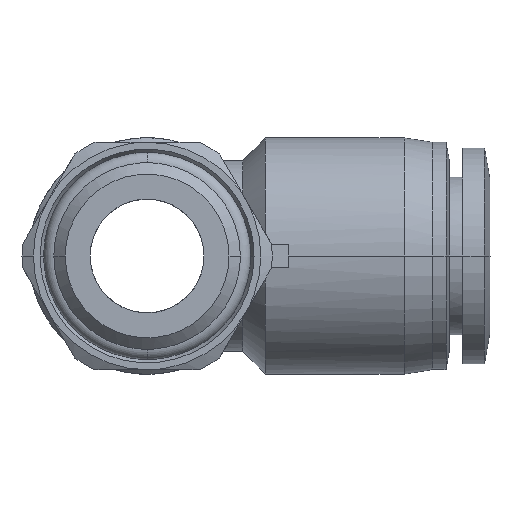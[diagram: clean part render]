
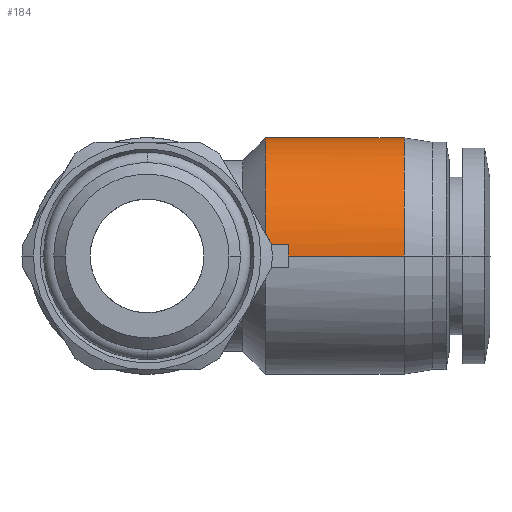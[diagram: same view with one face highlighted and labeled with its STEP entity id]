
A CAD part, front view. The second image highlights one B-rep face of the part: STEP entity #184.
In plain terms, the highlighted cylindrical face has radius 10.4 mm (diameter 20.8 mm), a partial arc.
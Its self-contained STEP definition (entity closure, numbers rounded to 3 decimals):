
#31 = CARTESIAN_POINT ( 'NONE',  ( 11.765, 8.548, 1. ) ) ;
#44 = CARTESIAN_POINT ( 'NONE',  ( 22.6, 13.662, 9.087 ) ) ;
#97 = EDGE_CURVE ( 'NONE', #4366, #2694, #3834, .T. ) ;
#146 = B_SPLINE_CURVE_WITH_KNOTS ( 'NONE', 3,
 ( #4037, #5932, #4533, #285 ),
 .UNSPECIFIED., .F., .F.,
 ( 4, 4 ),
 ( 0.5, 1. ),
 .UNSPECIFIED. ) ;
#152 = ORIENTED_EDGE ( 'NONE', *, *, #3053, .T. ) ;
#184 = ADVANCED_FACE ( 'NONE', ( #4417 ), #4883, .T. ) ;
#260 = CARTESIAN_POINT ( 'NONE',  ( 16.5, 18.9, 0. ) ) ;
#285 = CARTESIAN_POINT ( 'NONE',  ( 12.448, 8.548, 1. ) ) ;
#347 = AXIS2_PLACEMENT_3D ( 'NONE', #260, #2062, #1200 ) ;
#355 = CARTESIAN_POINT ( 'NONE',  ( 10.4, 9.031, 3.521 ) ) ;
#363 = CARTESIAN_POINT ( 'NONE',  ( 22.6, 21.622, 10.129 ) ) ;
#380 = CARTESIAN_POINT ( 'NONE',  ( 12.448, 8.548, 1. ) ) ;
#411 = VERTEX_POINT ( 'NONE', #2341 ) ;
#505 = ORIENTED_EDGE ( 'NONE', *, *, #3442, .F. ) ;
#533 = CARTESIAN_POINT ( 'NONE',  ( 12.448, 8.548, 1. ) ) ;
#549 = CARTESIAN_POINT ( 'NONE',  ( 22.6, 17.539, 10.4 ) ) ;
#572 = CARTESIAN_POINT ( 'NONE',  ( 10.4, 8.548, 1. ) ) ;
#604 = CARTESIAN_POINT ( 'NONE',  ( 13.348, 29.252, 1. ) ) ;
#674 = CARTESIAN_POINT ( 'NONE',  ( 10.4, 29.252, 1. ) ) ;
#713 = EDGE_CURVE ( 'NONE', #411, #2014, #4584, .T. ) ;
#823 = DIRECTION ( 'NONE',  ( 1., 0., 0. ) ) ;
#839 = ORIENTED_EDGE ( 'NONE', *, *, #4632, .F. ) ;
#912 = LINE ( 'NONE', #5530, #2248 ) ;
#972 = B_SPLINE_CURVE_WITH_KNOTS ( 'NONE', 3,
 ( #533, #31, #4180, #4247 ),
 .UNSPECIFIED., .F., .F.,
 ( 4, 4 ),
 ( 0., 1. ),
 .UNSPECIFIED. ) ;
#983 = CARTESIAN_POINT ( 'NONE',  ( 22.6, 9.813, 5.238 ) ) ;
#992 = ORIENTED_EDGE ( 'NONE', *, *, #713, .F. ) ;
#1081 = CARTESIAN_POINT ( 'NONE',  ( 22.6, 8.5, 0. ) ) ;
#1158 = CARTESIAN_POINT ( 'NONE',  ( 13.316, 29.284, 0.667 ) ) ;
#1200 = DIRECTION ( 'NONE',  ( 0., 1., 0. ) ) ;
#1229 = CARTESIAN_POINT ( 'NONE',  ( 10.4, 21.455, 10.162 ) ) ;
#1254 = ORIENTED_EDGE ( 'NONE', *, *, #97, .F. ) ;
#1289 = CARTESIAN_POINT ( 'NONE',  ( 10.4, 13.96, 9.241 ) ) ;
#1296 = CARTESIAN_POINT ( 'NONE',  ( 22.6, 25.291, 8.317 ) ) ;
#1381 = DIRECTION ( 'NONE',  ( 1., 0., 0. ) ) ;
#1430 = CARTESIAN_POINT ( 'NONE',  ( 10.4, 8.548, 1. ) ) ;
#1441 = CARTESIAN_POINT ( 'NONE',  ( 22.6, 10.583, 6.391 ) ) ;
#1474 = CARTESIAN_POINT ( 'NONE',  ( 22.6, 8.771, 2.722 ) ) ;
#1630 = CARTESIAN_POINT ( 'NONE',  ( 10.4, 27.623, 5.805 ) ) ;
#1637 = CARTESIAN_POINT ( 'NONE',  ( 10.4, 29.252, 1. ) ) ;
#1739 = VERTEX_POINT ( 'NONE', #5805 ) ;
#1749 = CARTESIAN_POINT ( 'NONE',  ( 10.4, 16.345, 10.162 ) ) ;
#1757 = CARTESIAN_POINT ( 'NONE',  ( 22.6, 29.029, 2.722 ) ) ;
#1844 = CARTESIAN_POINT ( 'NONE',  ( 22.6, 29.3, 0. ) ) ;
#1912 = ORIENTED_EDGE ( 'NONE', *, *, #4810, .F. ) ;
#2014 = VERTEX_POINT ( 'NONE', #3421 ) ;
#2017 = CARTESIAN_POINT ( 'NONE',  ( 13.3, 29.3, 0.334 ) ) ;
#2051 = VERTEX_POINT ( 'NONE', #572 ) ;
#2062 = DIRECTION ( 'NONE',  ( 1., 0., 0. ) ) ;
#2216 = VERTEX_POINT ( 'NONE', #380 ) ;
#2248 = VECTOR ( 'NONE', #823, 1000. ) ;
#2341 = CARTESIAN_POINT ( 'NONE',  ( 10.4, 29.252, 1. ) ) ;
#2363 = CARTESIAN_POINT ( 'NONE',  ( 10.4, 12.855, 8.558 ) ) ;
#2569 = CARTESIAN_POINT ( 'NONE',  ( 10.4, 29.129, 2.272 ) ) ;
#2589 = CARTESIAN_POINT ( 'NONE',  ( 22.6, 29.3, 0. ) ) ;
#2618 = CARTESIAN_POINT ( 'NONE',  ( 13.3, 29.3, 0. ) ) ;
#2675 = B_SPLINE_CURVE_WITH_KNOTS ( 'NONE', 3,
 ( #2618, #2017, #1158, #604 ),
 .UNSPECIFIED., .F., .F.,
 ( 4, 4 ),
 ( 0.5, 1. ),
 .UNSPECIFIED. ) ;
#2685 = CARTESIAN_POINT ( 'NONE',  ( 10.4, 10.177, 5.805 ) ) ;
#2694 = VERTEX_POINT ( 'NONE', #1081 ) ;
#2974 = CARTESIAN_POINT ( 'NONE',  ( 13.3, 29.3, 0. ) ) ;
#3019 = B_SPLINE_CURVE_WITH_KNOTS ( 'NONE', 3,
 ( #674, #2569, #4446, #1630, #3522, #5534, #4597, #1229, #5568, #5213, #1749, #1289, #2363, #3681, #2685, #355, #6025, #1430 ),
 .UNSPECIFIED., .F., .F.,
 ( 4, 2, 2, 2, 2, 2, 2, 2, 4 ),
 ( 0., 0.125, 0.25, 0.375, 0.5, 0.625, 0.75, 0.875, 1. ),
 .UNSPECIFIED. ) ;
#3053 = EDGE_CURVE ( 'NONE', #411, #2051, #3019, .T. ) ;
#3146 = CARTESIAN_POINT ( 'NONE',  ( 22.6, 27.987, 5.238 ) ) ;
#3304 = CARTESIAN_POINT ( 'NONE',  ( 22.6, 16.178, 10.129 ) ) ;
#3421 = CARTESIAN_POINT ( 'NONE',  ( 13.348, 29.252, 1. ) ) ;
#3442 = EDGE_CURVE ( 'NONE', #1739, #2216, #146, .T. ) ;
#3522 = CARTESIAN_POINT ( 'NONE',  ( 10.4, 26.837, 6.84 ) ) ;
#3564 = CARTESIAN_POINT ( 'NONE',  ( 12.365, 29.252, 1. ) ) ;
#3681 = CARTESIAN_POINT ( 'NONE',  ( 10.4, 10.963, 6.84 ) ) ;
#3739 = CARTESIAN_POINT ( 'NONE',  ( 22.6, 29.3, 1.361 ) ) ;
#3794 = VERTEX_POINT ( 'NONE', #2974 ) ;
#3834 = B_SPLINE_CURVE_WITH_KNOTS ( 'NONE', 3,
 ( #1844, #3739, #1757, #3146, #5541, #1296, #5075, #363, #4138, #549, #3304, #44, #4850, #1441, #983, #1474, #4723, #5195 ),
 .UNSPECIFIED., .F., .F.,
 ( 4, 2, 2, 2, 2, 2, 2, 2, 4 ),
 ( 0., 0.063, 0.125, 0.187, 0.25, 0.312, 0.375, 0.437, 0.5 ),
 .UNSPECIFIED. ) ;
#4037 = CARTESIAN_POINT ( 'NONE',  ( 12.4, 8.5, 0. ) ) ;
#4138 = CARTESIAN_POINT ( 'NONE',  ( 22.6, 20.261, 10.4 ) ) ;
#4139 = LINE ( 'NONE', #5575, #4400 ) ;
#4180 = CARTESIAN_POINT ( 'NONE',  ( 11.083, 8.548, 1. ) ) ;
#4247 = CARTESIAN_POINT ( 'NONE',  ( 10.4, 8.548, 1. ) ) ;
#4337 = EDGE_CURVE ( 'NONE', #3794, #2014, #2675, .T. ) ;
#4366 = VERTEX_POINT ( 'NONE', #2589 ) ;
#4379 = ORIENTED_EDGE ( 'NONE', *, *, #4337, .T. ) ;
#4400 = VECTOR ( 'NONE', #1381, 1000. ) ;
#4417 = FACE_OUTER_BOUND ( 'NONE', #5280, .T. ) ;
#4446 = CARTESIAN_POINT ( 'NONE',  ( 10.4, 28.769, 3.521 ) ) ;
#4525 = ORIENTED_EDGE ( 'NONE', *, *, #6073, .T. ) ;
#4533 = CARTESIAN_POINT ( 'NONE',  ( 12.416, 8.516, 0.667 ) ) ;
#4584 = B_SPLINE_CURVE_WITH_KNOTS ( 'NONE', 3,
 ( #1637, #5882, #3564, #5425 ),
 .UNSPECIFIED., .F., .F.,
 ( 4, 4 ),
 ( 0., 1. ),
 .UNSPECIFIED. ) ;
#4597 = CARTESIAN_POINT ( 'NONE',  ( 10.4, 23.84, 9.241 ) ) ;
#4632 = EDGE_CURVE ( 'NONE', #2216, #2051, #972, .T. ) ;
#4723 = CARTESIAN_POINT ( 'NONE',  ( 22.6, 8.5, 1.361 ) ) ;
#4810 = EDGE_CURVE ( 'NONE', #3794, #4366, #912, .T. ) ;
#4850 = CARTESIAN_POINT ( 'NONE',  ( 22.6, 12.509, 8.317 ) ) ;
#4883 = CYLINDRICAL_SURFACE ( 'NONE', #347, 10.4 ) ;
#5075 = CARTESIAN_POINT ( 'NONE',  ( 22.6, 24.138, 9.087 ) ) ;
#5195 = CARTESIAN_POINT ( 'NONE',  ( 22.6, 8.5, 0. ) ) ;
#5213 = CARTESIAN_POINT ( 'NONE',  ( 10.4, 17.622, 10.4 ) ) ;
#5280 = EDGE_LOOP ( 'NONE', ( #505, #4525, #1254, #1912, #4379, #992, #152, #839 ) ) ;
#5425 = CARTESIAN_POINT ( 'NONE',  ( 13.348, 29.252, 1. ) ) ;
#5530 = CARTESIAN_POINT ( 'NONE',  ( 16.5, 29.3, 0. ) ) ;
#5534 = CARTESIAN_POINT ( 'NONE',  ( 10.4, 24.945, 8.558 ) ) ;
#5541 = CARTESIAN_POINT ( 'NONE',  ( 22.6, 27.217, 6.391 ) ) ;
#5568 = CARTESIAN_POINT ( 'NONE',  ( 10.4, 20.178, 10.4 ) ) ;
#5575 = CARTESIAN_POINT ( 'NONE',  ( 16.5, 8.5, 0. ) ) ;
#5805 = CARTESIAN_POINT ( 'NONE',  ( 12.4, 8.5, 0. ) ) ;
#5882 = CARTESIAN_POINT ( 'NONE',  ( 11.383, 29.252, 1. ) ) ;
#5932 = CARTESIAN_POINT ( 'NONE',  ( 12.4, 8.5, 0.333 ) ) ;
#6025 = CARTESIAN_POINT ( 'NONE',  ( 10.4, 8.671, 2.272 ) ) ;
#6073 = EDGE_CURVE ( 'NONE', #1739, #2694, #4139, .T. ) ;
